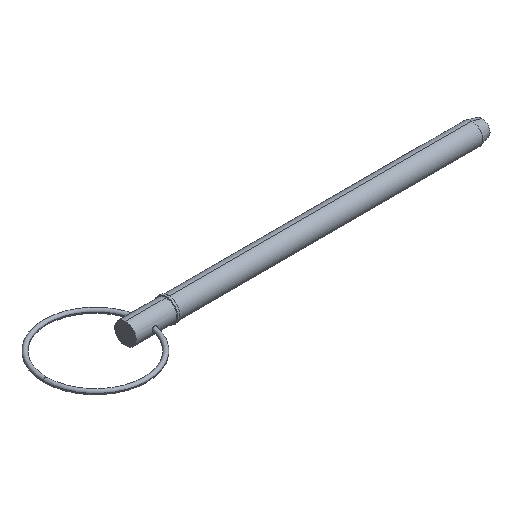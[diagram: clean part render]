
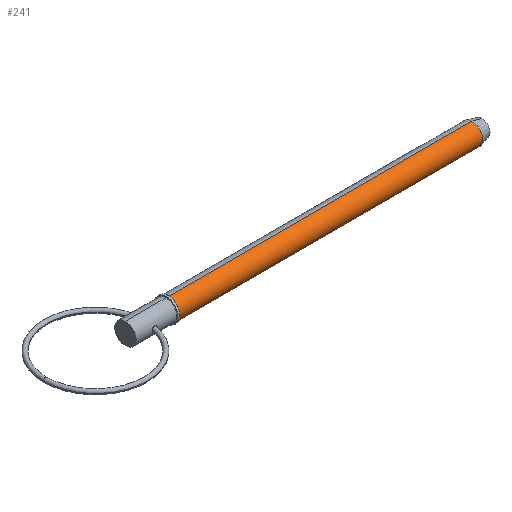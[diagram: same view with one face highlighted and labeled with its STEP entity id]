
A CAD part, isometric view. The second image highlights one B-rep face of the part: STEP entity #241.
In plain terms, the highlighted cylindrical face has radius 4.765 mm (diameter 9.53 mm), a partial arc.
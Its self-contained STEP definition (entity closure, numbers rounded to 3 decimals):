
#71 = EDGE_CURVE ( 'NONE', #811, #626, #537, .T. ) ;
#93 = DIRECTION ( 'NONE',  ( 0., 0., -1. ) ) ;
#108 = ORIENTED_EDGE ( 'NONE', *, *, #987, .F. ) ;
#162 = EDGE_CURVE ( 'NONE', #874, #913, #165, .T. ) ;
#164 = DIRECTION ( 'NONE',  ( 1., 0., 0. ) ) ;
#165 = CIRCLE ( 'NONE', #710, 4.765 ) ;
#178 = CARTESIAN_POINT ( 'NONE',  ( 19.05, 0., -4.765 ) ) ;
#241 = ADVANCED_FACE ( 'NONE', ( #625 ), #293, .T. ) ;
#280 = ORIENTED_EDGE ( 'NONE', *, *, #492, .T. ) ;
#293 = CYLINDRICAL_SURFACE ( 'NONE', #778, 4.765 ) ;
#369 = ORIENTED_EDGE ( 'NONE', *, *, #71, .T. ) ;
#401 = DIRECTION ( 'NONE',  ( 1., 0., 0. ) ) ;
#406 = CARTESIAN_POINT ( 'NONE',  ( 0., 0., 4.765 ) ) ;
#410 = DIRECTION ( 'NONE',  ( 0., 0., -1. ) ) ;
#446 = CARTESIAN_POINT ( 'NONE',  ( 0., 0., 0. ) ) ;
#492 = EDGE_CURVE ( 'NONE', #626, #913, #862, .T. ) ;
#493 = CARTESIAN_POINT ( 'NONE',  ( 0., 0., -4.765 ) ) ;
#525 = ORIENTED_EDGE ( 'NONE', *, *, #162, .F. ) ;
#537 = CIRCLE ( 'NONE', #605, 4.765 ) ;
#588 = VECTOR ( 'NONE', #401, 1000. ) ;
#605 = AXIS2_PLACEMENT_3D ( 'NONE', #722, #164, #410 ) ;
#609 = CARTESIAN_POINT ( 'NONE',  ( 154.304, 0., -4.765 ) ) ;
#625 = FACE_OUTER_BOUND ( 'NONE', #826, .T. ) ;
#626 = VERTEX_POINT ( 'NONE', #178 ) ;
#635 = VECTOR ( 'NONE', #852, 1000. ) ;
#655 = DIRECTION ( 'NONE',  ( 1., 0., 0. ) ) ;
#664 = CARTESIAN_POINT ( 'NONE',  ( 154.304, 0., 0. ) ) ;
#681 = LINE ( 'NONE', #406, #635 ) ;
#710 = AXIS2_PLACEMENT_3D ( 'NONE', #664, #655, #93 ) ;
#722 = CARTESIAN_POINT ( 'NONE',  ( 19.05, 0., 0. ) ) ;
#754 = DIRECTION ( 'NONE',  ( 0., 0., -1. ) ) ;
#775 = DIRECTION ( 'NONE',  ( 1., 0., 0. ) ) ;
#778 = AXIS2_PLACEMENT_3D ( 'NONE', #446, #775, #754 ) ;
#811 = VERTEX_POINT ( 'NONE', #1001 ) ;
#826 = EDGE_LOOP ( 'NONE', ( #108, #369, #280, #525 ) ) ;
#852 = DIRECTION ( 'NONE',  ( 1., 0., 0. ) ) ;
#862 = LINE ( 'NONE', #493, #588 ) ;
#874 = VERTEX_POINT ( 'NONE', #919 ) ;
#913 = VERTEX_POINT ( 'NONE', #609 ) ;
#919 = CARTESIAN_POINT ( 'NONE',  ( 154.304, 0., 4.765 ) ) ;
#987 = EDGE_CURVE ( 'NONE', #811, #874, #681, .T. ) ;
#1001 = CARTESIAN_POINT ( 'NONE',  ( 19.05, 0., 4.765 ) ) ;
